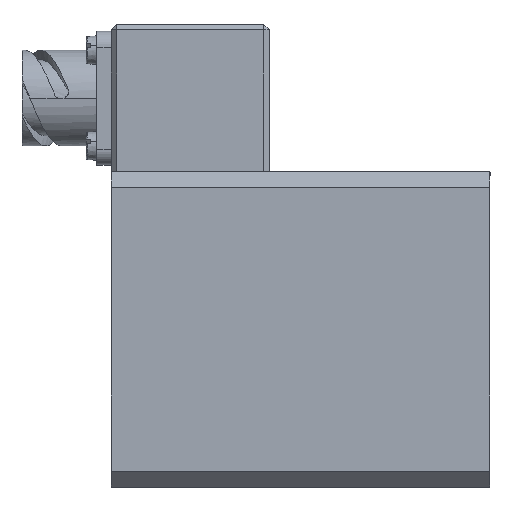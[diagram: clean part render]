
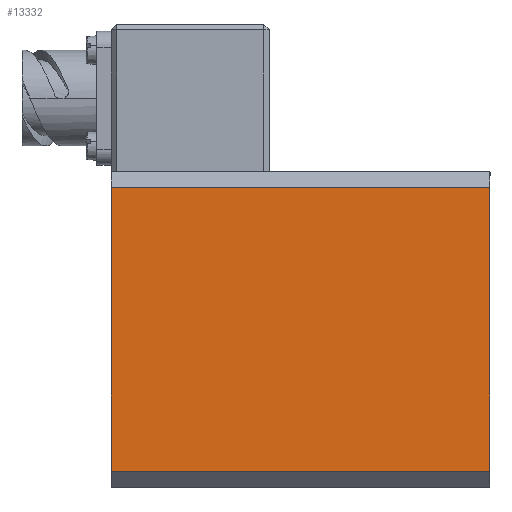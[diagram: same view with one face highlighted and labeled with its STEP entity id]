
A CAD part, top view. The second image highlights one B-rep face of the part: STEP entity #13332.
In plain terms, the highlighted planar face has unit normal (0, 0, 1).
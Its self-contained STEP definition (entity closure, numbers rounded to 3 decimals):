
#237 = DIRECTION ( 'NONE',  ( 1., 0., 0. ) ) ;
#453 = AXIS2_PLACEMENT_3D ( 'NONE', #12054, #5400, #13188 ) ;
#464 = CARTESIAN_POINT ( 'NONE',  ( -36., 27., 30. ) ) ;
#622 = VERTEX_POINT ( 'NONE', #1360 ) ;
#1360 = CARTESIAN_POINT ( 'NONE',  ( 36., -27., 30. ) ) ;
#1962 = CARTESIAN_POINT ( 'NONE',  ( -36., -27., 30. ) ) ;
#1997 = DIRECTION ( 'NONE',  ( 0., -1., 0. ) ) ;
#2292 = FACE_OUTER_BOUND ( 'NONE', #9507, .T. ) ;
#2867 = EDGE_CURVE ( 'NONE', #4661, #2921, #9007, .T. ) ;
#2921 = VERTEX_POINT ( 'NONE', #13703 ) ;
#3098 = CARTESIAN_POINT ( 'NONE',  ( -36., 30., 30. ) ) ;
#3411 = VECTOR ( 'NONE', #3786, 1000. ) ;
#3786 = DIRECTION ( 'NONE',  ( 0., -1., 0. ) ) ;
#3929 = ORIENTED_EDGE ( 'NONE', *, *, #2867, .F. ) ;
#4661 = VERTEX_POINT ( 'NONE', #464 ) ;
#4740 = ORIENTED_EDGE ( 'NONE', *, *, #9758, .F. ) ;
#5273 = LINE ( 'NONE', #1962, #10852 ) ;
#5400 = DIRECTION ( 'NONE',  ( 0., 0., -1. ) ) ;
#5945 = EDGE_CURVE ( 'NONE', #4661, #11817, #9497, .T. ) ;
#7672 = DIRECTION ( 'NONE',  ( 1., 0., 0. ) ) ;
#7710 = EDGE_CURVE ( 'NONE', #11817, #622, #5273, .T. ) ;
#8337 = CARTESIAN_POINT ( 'NONE',  ( 36., 30., 30. ) ) ;
#8671 = VECTOR ( 'NONE', #237, 1000. ) ;
#9007 = LINE ( 'NONE', #13646, #8671 ) ;
#9128 = VECTOR ( 'NONE', #1997, 1000. ) ;
#9497 = LINE ( 'NONE', #3098, #9128 ) ;
#9507 = EDGE_LOOP ( 'NONE', ( #13657, #10154, #4740, #3929 ) ) ;
#9758 = EDGE_CURVE ( 'NONE', #2921, #622, #12403, .T. ) ;
#10154 = ORIENTED_EDGE ( 'NONE', *, *, #7710, .T. ) ;
#10852 = VECTOR ( 'NONE', #7672, 1000. ) ;
#11817 = VERTEX_POINT ( 'NONE', #12592 ) ;
#12054 = CARTESIAN_POINT ( 'NONE',  ( 36., 30., 30. ) ) ;
#12403 = LINE ( 'NONE', #8337, #3411 ) ;
#12592 = CARTESIAN_POINT ( 'NONE',  ( -36., -27., 30. ) ) ;
#13132 = PLANE ( 'NONE',  #453 ) ;
#13188 = DIRECTION ( 'NONE',  ( 0., 1., 0. ) ) ;
#13332 = ADVANCED_FACE ( 'NONE', ( #2292 ), #13132, .F. ) ;
#13646 = CARTESIAN_POINT ( 'NONE',  ( -36., 27., 30. ) ) ;
#13657 = ORIENTED_EDGE ( 'NONE', *, *, #5945, .T. ) ;
#13703 = CARTESIAN_POINT ( 'NONE',  ( 36., 27., 30. ) ) ;
